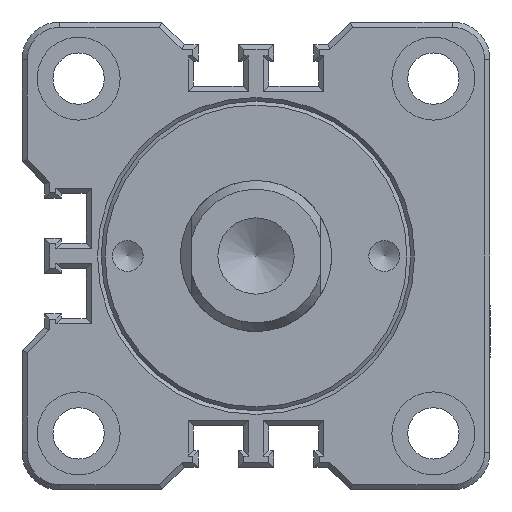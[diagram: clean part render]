
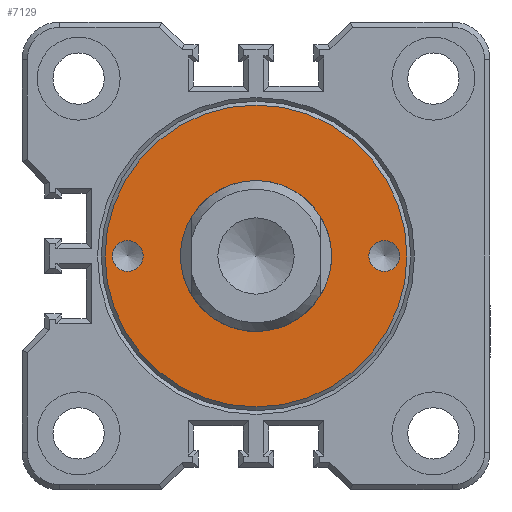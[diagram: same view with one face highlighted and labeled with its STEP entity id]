
A CAD part, front view. The second image highlights one B-rep face of the part: STEP entity #7129.
In plain terms, the highlighted planar face has unit normal (0, -1, 0).
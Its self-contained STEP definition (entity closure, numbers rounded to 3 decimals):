
#105=PLANE('',#7469);
#356=CIRCLE('',#7462,2.05);
#357=CIRCLE('',#7464,10.);
#358=CIRCLE('',#7466,2.05);
#360=CIRCLE('',#7470,20.);
#1707=ORIENTED_EDGE('',*,*,#2929,.T.);
#1708=ORIENTED_EDGE('',*,*,#2928,.F.);
#1709=ORIENTED_EDGE('',*,*,#2927,.T.);
#1710=ORIENTED_EDGE('',*,*,#2955,.T.);
#2927=EDGE_CURVE('',#3574,#3574,#356,.T.);
#2928=EDGE_CURVE('',#3575,#3575,#357,.T.);
#2929=EDGE_CURVE('',#3576,#3576,#358,.T.);
#2955=EDGE_CURVE('',#3596,#3596,#360,.T.);
#3574=VERTEX_POINT('',#9940);
#3575=VERTEX_POINT('',#9943);
#3576=VERTEX_POINT('',#9946);
#3596=VERTEX_POINT('',#10114);
#4083=EDGE_LOOP('',(#1707));
#4084=EDGE_LOOP('',(#1708));
#4085=EDGE_LOOP('',(#1709));
#4086=EDGE_LOOP('',(#1710));
#4469=FACE_BOUND('',#4083,.T.);
#4470=FACE_BOUND('',#4084,.T.);
#4471=FACE_BOUND('',#4085,.T.);
#4472=FACE_BOUND('',#4086,.T.);
#7129=ADVANCED_FACE('',(#4469,#4470,#4471,#4472),#105,.T.);
#7462=AXIS2_PLACEMENT_3D('',#9939,#7968,#7969);
#7464=AXIS2_PLACEMENT_3D('',#9942,#7972,#7973);
#7466=AXIS2_PLACEMENT_3D('',#9945,#7976,#7977);
#7469=AXIS2_PLACEMENT_3D('',#10112,#7982,#7983);
#7470=AXIS2_PLACEMENT_3D('',#10113,#7984,#7985);
#7968=DIRECTION('',(0.,1.,0.));
#7969=DIRECTION('',(0.,0.,-1.));
#7972=DIRECTION('',(0.,-1.,0.));
#7973=DIRECTION('',(1.,0.,0.));
#7976=DIRECTION('',(0.,1.,0.));
#7977=DIRECTION('',(0.,0.,-1.));
#7982=DIRECTION('',(0.,-1.,0.));
#7983=DIRECTION('',(1.,0.,0.));
#7984=DIRECTION('',(0.,-1.,0.));
#7985=DIRECTION('',(0.,0.,-1.));
#9939=CARTESIAN_POINT('',(-17.,0.,0.));
#9940=CARTESIAN_POINT('',(-17.,0.,-2.05));
#9942=CARTESIAN_POINT('',(0.,0.,0.));
#9943=CARTESIAN_POINT('',(10.,0.,0.));
#9945=CARTESIAN_POINT('',(17.,0.,0.));
#9946=CARTESIAN_POINT('',(17.,0.,-2.05));
#10112=CARTESIAN_POINT('',(-26.,0.,26.));
#10113=CARTESIAN_POINT('',(0.,0.,0.));
#10114=CARTESIAN_POINT('',(0.,0.,-20.));
